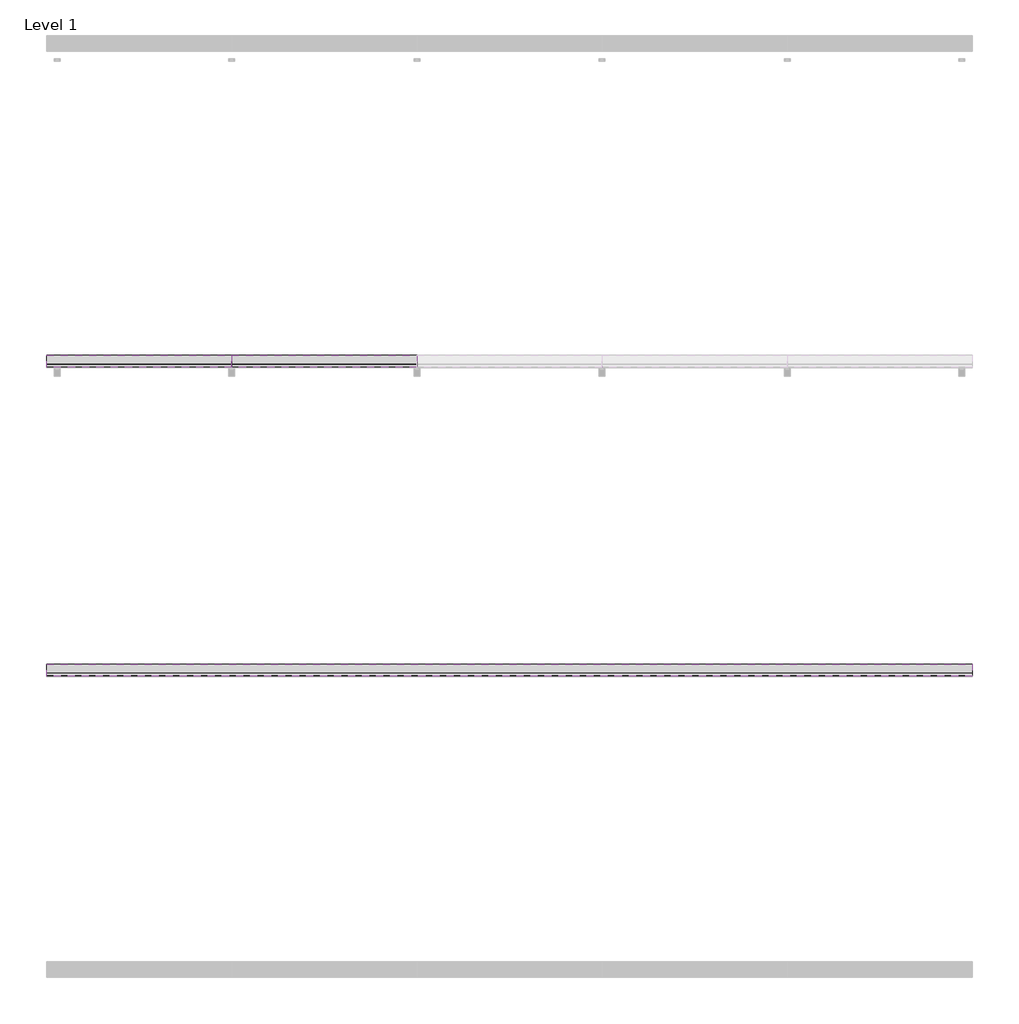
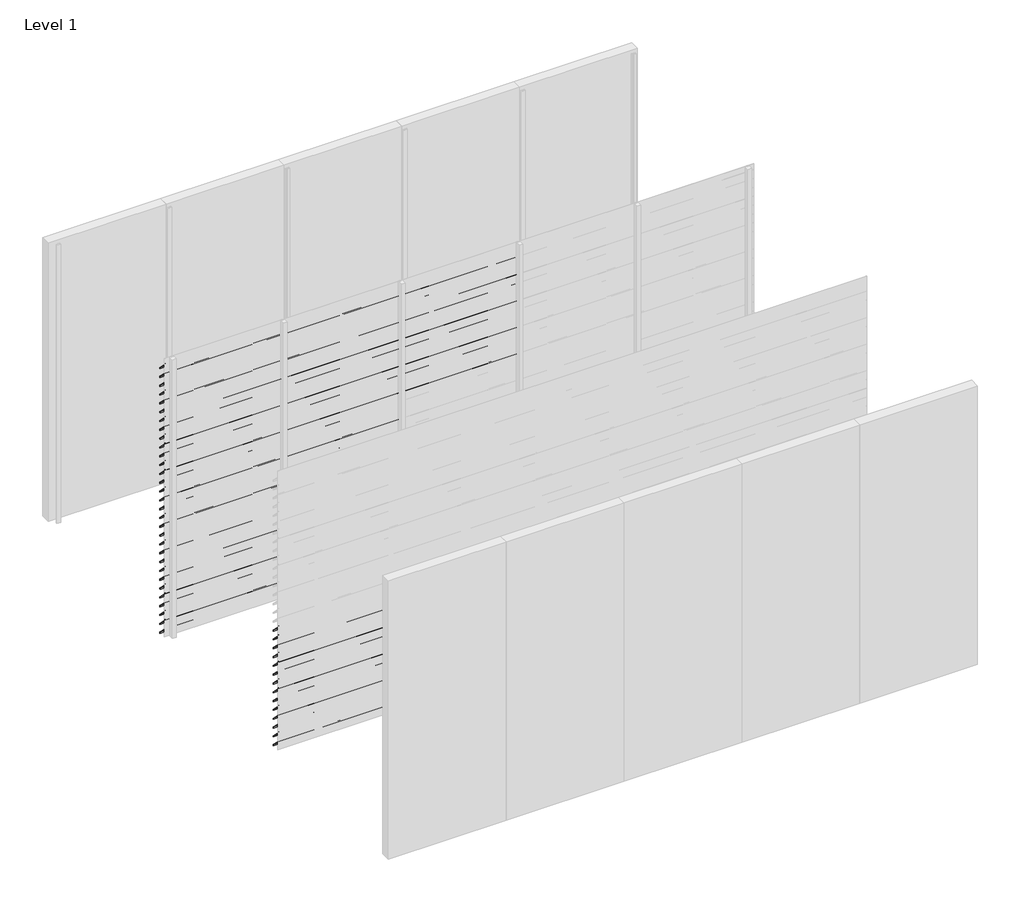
# One storey, part 12 of 24: 89 proxies.
"""IFC4 building model written with IfcOpenShell, lengths in millimetres."""

from ifc_helpers import new_model, si_unit, frame, origin, place, context, project, spatial, polyline, outline, extrude, element, save

model = new_model("IFC4")

# Units and contexts
model_context = context("Model", 3, world=origin())
ifc_project = project(units=[si_unit("LENGTHUNIT", "METRE", prefix="MILLI")], contexts=[model_context])

# Site, building, storey
site = spatial("IfcSite", under=ifc_project)
building = spatial("IfcBuilding", under=site)
storey = spatial("IfcBuildingStorey", under=building, Name="Level 1", Elevation=0.0)

# Proxies
placement = place(None, origin())
element("IfcBuildingElementProxy", 1, Name="Wall Sweeps", at=placement, inside=storey, context=model_context, shape_type="SweptSolid", body=[
    extrude(outline(polyline([(-29920.8, 2842.9), (-29922.3, 2842.9), (-29922.3, 2855.1762333), (-29998.0, 2930.4561238), (-29998.0, 2945.0), (-29996.5, 2945.0), (-29996.5, 2931.0798905), (-29920.8, 2855.8), (-29920.8, 2842.9)])), frame((0.0, 0.0, 0.0), z_axis=(1.0, 0.0, 0.0), x_axis=(0.0, 1.0, 0.0)), (0.0, 0.0, 1.0), 1200.0),
])
element("IfcBuildingElementProxy", 2, Name="Wall Sweeps", at=placement, inside=storey, context=model_context, shape_type="SweptSolid", body=[
    extrude(outline(polyline([(-29920.8, 2747.9), (-29922.3, 2747.9), (-29922.3, 2760.1762333), (-29998.0, 2835.4561238), (-29998.0, 2850.0), (-29996.5, 2850.0), (-29996.5, 2836.0798905), (-29920.8, 2760.8), (-29920.8, 2747.9)])), frame((0.0, 0.0, 0.0), z_axis=(1.0, 0.0, 0.0), x_axis=(0.0, 1.0, 0.0)), (0.0, 0.0, 1.0), 1200.0),
])
element("IfcBuildingElementProxy", 3, Name="Wall Sweeps", at=placement, inside=storey, context=model_context, shape_type="SweptSolid", body=[
    extrude(outline(polyline([(-29920.8, 2652.9), (-29922.3, 2652.9), (-29922.3, 2665.1762333), (-29998.0, 2740.4561238), (-29998.0, 2755.0), (-29996.5, 2755.0), (-29996.5, 2741.0798905), (-29920.8, 2665.8), (-29920.8, 2652.9)])), frame((0.0, 0.0, 0.0), z_axis=(1.0, 0.0, 0.0), x_axis=(0.0, 1.0, 0.0)), (0.0, 0.0, 1.0), 1200.0),
])
element("IfcBuildingElementProxy", 4, Name="Wall Sweeps", at=placement, inside=storey, context=model_context, shape_type="SweptSolid", body=[
    extrude(outline(polyline([(-29920.8, 2557.9), (-29922.3, 2557.9), (-29922.3, 2570.1762333), (-29998.0, 2645.4561238), (-29998.0, 2660.0), (-29996.5, 2660.0), (-29996.5, 2646.0798905), (-29920.8, 2570.8), (-29920.8, 2557.9)])), frame((0.0, 0.0, 0.0), z_axis=(1.0, 0.0, 0.0), x_axis=(0.0, 1.0, 0.0)), (0.0, 0.0, 1.0), 1200.0),
])
element("IfcBuildingElementProxy", 5, Name="Wall Sweeps", at=placement, inside=storey, context=model_context, shape_type="SweptSolid", body=[
    extrude(outline(polyline([(-29920.8, 2462.9), (-29922.3, 2462.9), (-29922.3, 2475.1762333), (-29998.0, 2550.4561238), (-29998.0, 2565.0), (-29996.5, 2565.0), (-29996.5, 2551.0798905), (-29920.8, 2475.8), (-29920.8, 2462.9)])), frame((0.0, 0.0, 0.0), z_axis=(1.0, 0.0, 0.0), x_axis=(0.0, 1.0, 0.0)), (0.0, 0.0, 1.0), 1200.0),
])
element("IfcBuildingElementProxy", 6, Name="Wall Sweeps", at=placement, inside=storey, context=model_context, shape_type="SweptSolid", body=[
    extrude(outline(polyline([(-29920.8, 2367.9), (-29922.3, 2367.9), (-29922.3, 2380.1762333), (-29998.0, 2455.4561238), (-29998.0, 2470.0), (-29996.5, 2470.0), (-29996.5, 2456.0798905), (-29920.8, 2380.8), (-29920.8, 2367.9)])), frame((0.0, 0.0, 0.0), z_axis=(1.0, 0.0, 0.0), x_axis=(0.0, 1.0, 0.0)), (0.0, 0.0, 1.0), 1200.0),
])
element("IfcBuildingElementProxy", 7, Name="Wall Sweeps", at=placement, inside=storey, context=model_context, shape_type="SweptSolid", body=[
    extrude(outline(polyline([(-29920.8, 2272.9), (-29922.3, 2272.9), (-29922.3, 2285.1762333), (-29998.0, 2360.4561238), (-29998.0, 2375.0), (-29996.5, 2375.0), (-29996.5, 2361.0798905), (-29920.8, 2285.8), (-29920.8, 2272.9)])), frame((0.0, 0.0, 0.0), z_axis=(1.0, 0.0, 0.0), x_axis=(0.0, 1.0, 0.0)), (0.0, 0.0, 1.0), 1200.0),
])
element("IfcBuildingElementProxy", 8, Name="Wall Sweeps", at=placement, inside=storey, context=model_context, shape_type="SweptSolid", body=[
    extrude(outline(polyline([(-29920.8, 2177.9), (-29922.3, 2177.9), (-29922.3, 2190.1762333), (-29998.0, 2265.4561238), (-29998.0, 2280.0), (-29996.5, 2280.0), (-29996.5, 2266.0798905), (-29920.8, 2190.8), (-29920.8, 2177.9)])), frame((0.0, 0.0, 0.0), z_axis=(1.0, 0.0, 0.0), x_axis=(0.0, 1.0, 0.0)), (0.0, 0.0, 1.0), 1200.0),
])
element("IfcBuildingElementProxy", 9, Name="Wall Sweeps", at=placement, inside=storey, context=model_context, shape_type="SweptSolid", body=[
    extrude(outline(polyline([(-29920.8, 2082.9), (-29922.3, 2082.9), (-29922.3, 2095.1762333), (-29998.0, 2170.4561238), (-29998.0, 2185.0), (-29996.5, 2185.0), (-29996.5, 2171.0798905), (-29920.8, 2095.8), (-29920.8, 2082.9)])), frame((0.0, 0.0, 0.0), z_axis=(1.0, 0.0, 0.0), x_axis=(0.0, 1.0, 0.0)), (0.0, 0.0, 1.0), 1200.0),
])
element("IfcBuildingElementProxy", 10, Name="Wall Sweeps", at=placement, inside=storey, context=model_context, shape_type="SweptSolid", body=[
    extrude(outline(polyline([(-29920.8, 1987.9), (-29922.3, 1987.9), (-29922.3, 2000.1762333), (-29998.0, 2075.4561238), (-29998.0, 2090.0), (-29996.5, 2090.0), (-29996.5, 2076.0798905), (-29920.8, 2000.8), (-29920.8, 1987.9)])), frame((0.0, 0.0, 0.0), z_axis=(1.0, 0.0, 0.0), x_axis=(0.0, 1.0, 0.0)), (0.0, 0.0, 1.0), 1200.0),
])
element("IfcBuildingElementProxy", 11, Name="Wall Sweeps", at=placement, inside=storey, context=model_context, shape_type="SweptSolid", body=[
    extrude(outline(polyline([(-29920.8, 1892.9), (-29922.3, 1892.9), (-29922.3, 1905.1762333), (-29998.0, 1980.4561238), (-29998.0, 1995.0), (-29996.5, 1995.0), (-29996.5, 1981.0798905), (-29920.8, 1905.8), (-29920.8, 1892.9)])), frame((0.0, 0.0, 0.0), z_axis=(1.0, 0.0, 0.0), x_axis=(0.0, 1.0, 0.0)), (0.0, 0.0, 1.0), 1200.0),
])
element("IfcBuildingElementProxy", 12, Name="Wall Sweeps", at=placement, inside=storey, context=model_context, shape_type="SweptSolid", body=[
    extrude(outline(polyline([(-29920.8, 1797.9), (-29922.3, 1797.9), (-29922.3, 1810.1762333), (-29998.0, 1885.4561238), (-29998.0, 1900.0), (-29996.5, 1900.0), (-29996.5, 1886.0798905), (-29920.8, 1810.8), (-29920.8, 1797.9)])), frame((0.0, 0.0, 0.0), z_axis=(1.0, 0.0, 0.0), x_axis=(0.0, 1.0, 0.0)), (0.0, 0.0, 1.0), 1200.0),
])
element("IfcBuildingElementProxy", 13, Name="Wall Sweeps", at=placement, inside=storey, context=model_context, shape_type="SweptSolid", body=[
    extrude(outline(polyline([(-29920.8, 1702.9), (-29922.3, 1702.9), (-29922.3, 1715.1762333), (-29998.0, 1790.4561238), (-29998.0, 1805.0), (-29996.5, 1805.0), (-29996.5, 1791.0798905), (-29920.8, 1715.8), (-29920.8, 1702.9)])), frame((0.0, 0.0, 0.0), z_axis=(1.0, 0.0, 0.0), x_axis=(0.0, 1.0, 0.0)), (0.0, 0.0, 1.0), 1200.0),
])
element("IfcBuildingElementProxy", 14, Name="Wall Sweeps", at=placement, inside=storey, context=model_context, shape_type="SweptSolid", body=[
    extrude(outline(polyline([(-29920.8, 1607.9), (-29922.3, 1607.9), (-29922.3, 1620.1762333), (-29998.0, 1695.4561238), (-29998.0, 1710.0), (-29996.5, 1710.0), (-29996.5, 1696.0798905), (-29920.8, 1620.8), (-29920.8, 1607.9)])), frame((0.0, 0.0, 0.0), z_axis=(1.0, 0.0, 0.0), x_axis=(0.0, 1.0, 0.0)), (0.0, 0.0, 1.0), 1200.0),
])
element("IfcBuildingElementProxy", 15, Name="Wall Sweeps", at=placement, inside=storey, context=model_context, shape_type="SweptSolid", body=[
    extrude(outline(polyline([(-29920.8, 1512.9), (-29922.3, 1512.9), (-29922.3, 1525.1762333), (-29998.0, 1600.4561238), (-29998.0, 1615.0), (-29996.5, 1615.0), (-29996.5, 1601.0798905), (-29920.8, 1525.8), (-29920.8, 1512.9)])), frame((0.0, 0.0, 0.0), z_axis=(1.0, 0.0, 0.0), x_axis=(0.0, 1.0, 0.0)), (0.0, 0.0, 1.0), 1200.0),
])
element("IfcBuildingElementProxy", 16, Name="Wall Sweeps", at=placement, inside=storey, context=model_context, shape_type="SweptSolid", body=[
    extrude(outline(polyline([(-29920.8, 1417.9), (-29922.3, 1417.9), (-29922.3, 1430.1762333), (-29998.0, 1505.4561238), (-29998.0, 1520.0), (-29996.5, 1520.0), (-29996.5, 1506.0798905), (-29920.8, 1430.8), (-29920.8, 1417.9)])), frame((0.0, 0.0, 0.0), z_axis=(1.0, 0.0, 0.0), x_axis=(0.0, 1.0, 0.0)), (0.0, 0.0, 1.0), 1200.0),
])
element("IfcBuildingElementProxy", 17, Name="Wall Sweeps", at=placement, inside=storey, context=model_context, shape_type="SweptSolid", body=[
    extrude(outline(polyline([(-29920.8, 1322.9), (-29922.3, 1322.9), (-29922.3, 1335.1762333), (-29998.0, 1410.4561238), (-29998.0, 1425.0), (-29996.5, 1425.0), (-29996.5, 1411.0798905), (-29920.8, 1335.8), (-29920.8, 1322.9)])), frame((0.0, 0.0, 0.0), z_axis=(1.0, 0.0, 0.0), x_axis=(0.0, 1.0, 0.0)), (0.0, 0.0, 1.0), 1200.0),
])
element("IfcBuildingElementProxy", 18, Name="Wall Sweeps", at=placement, inside=storey, context=model_context, shape_type="SweptSolid", body=[
    extrude(outline(polyline([(-29920.8, 1227.9), (-29922.3, 1227.9), (-29922.3, 1240.1762333), (-29998.0, 1315.4561238), (-29998.0, 1330.0), (-29996.5, 1330.0), (-29996.5, 1316.0798905), (-29920.8, 1240.8), (-29920.8, 1227.9)])), frame((0.0, 0.0, 0.0), z_axis=(1.0, 0.0, 0.0), x_axis=(0.0, 1.0, 0.0)), (0.0, 0.0, 1.0), 1200.0),
])
element("IfcBuildingElementProxy", 19, Name="Wall Sweeps", at=placement, inside=storey, context=model_context, shape_type="SweptSolid", body=[
    extrude(outline(polyline([(-29920.8, 1132.9), (-29922.3, 1132.9), (-29922.3, 1145.1762333), (-29998.0, 1220.4561238), (-29998.0, 1235.0), (-29996.5, 1235.0), (-29996.5, 1221.0798905), (-29920.8, 1145.8), (-29920.8, 1132.9)])), frame((0.0, 0.0, 0.0), z_axis=(1.0, 0.0, 0.0), x_axis=(0.0, 1.0, 0.0)), (0.0, 0.0, 1.0), 1200.0),
])
element("IfcBuildingElementProxy", 20, Name="Wall Sweeps", at=placement, inside=storey, context=model_context, shape_type="SweptSolid", body=[
    extrude(outline(polyline([(-29920.8, 1037.9), (-29922.3, 1037.9), (-29922.3, 1050.1762333), (-29998.0, 1125.4561238), (-29998.0, 1140.0), (-29996.5, 1140.0), (-29996.5, 1126.0798905), (-29920.8, 1050.8), (-29920.8, 1037.9)])), frame((0.0, 0.0, 0.0), z_axis=(1.0, 0.0, 0.0), x_axis=(0.0, 1.0, 0.0)), (0.0, 0.0, 1.0), 1200.0),
])
element("IfcBuildingElementProxy", 21, Name="Wall Sweeps", at=placement, inside=storey, context=model_context, shape_type="SweptSolid", body=[
    extrude(outline(polyline([(-29920.8, 942.9), (-29922.3, 942.9), (-29922.3, 955.1762333), (-29998.0, 1030.4561238), (-29998.0, 1045.0), (-29996.5, 1045.0), (-29996.5, 1031.0798905), (-29920.8, 955.8), (-29920.8, 942.9)])), frame((0.0, 0.0, 0.0), z_axis=(1.0, 0.0, 0.0), x_axis=(0.0, 1.0, 0.0)), (0.0, 0.0, 1.0), 1200.0),
])
element("IfcBuildingElementProxy", 22, Name="Wall Sweeps", at=placement, inside=storey, context=model_context, shape_type="SweptSolid", body=[
    extrude(outline(polyline([(-29920.8, 847.9), (-29922.3, 847.9), (-29922.3, 860.1762333), (-29998.0, 935.4561238), (-29998.0, 950.0), (-29996.5, 950.0), (-29996.5, 936.0798905), (-29920.8, 860.8), (-29920.8, 847.9)])), frame((0.0, 0.0, 0.0), z_axis=(1.0, 0.0, 0.0), x_axis=(0.0, 1.0, 0.0)), (0.0, 0.0, 1.0), 1200.0),
])
element("IfcBuildingElementProxy", 23, Name="Wall Sweeps", at=placement, inside=storey, context=model_context, shape_type="SweptSolid", body=[
    extrude(outline(polyline([(-29920.8, 752.9), (-29922.3, 752.9), (-29922.3, 765.1762333), (-29998.0, 840.4561238), (-29998.0, 855.0), (-29996.5, 855.0), (-29996.5, 841.0798905), (-29920.8, 765.8), (-29920.8, 752.9)])), frame((0.0, 0.0, 0.0), z_axis=(1.0, 0.0, 0.0), x_axis=(0.0, 1.0, 0.0)), (0.0, 0.0, 1.0), 1200.0),
])
element("IfcBuildingElementProxy", 24, Name="Wall Sweeps", at=placement, inside=storey, context=model_context, shape_type="SweptSolid", body=[
    extrude(outline(polyline([(-29920.8, 657.9), (-29922.3, 657.9), (-29922.3, 670.1762333), (-29998.0, 745.4561238), (-29998.0, 760.0), (-29996.5, 760.0), (-29996.5, 746.0798905), (-29920.8, 670.8), (-29920.8, 657.9)])), frame((0.0, 0.0, 0.0), z_axis=(1.0, 0.0, 0.0), x_axis=(0.0, 1.0, 0.0)), (0.0, 0.0, 1.0), 1200.0),
])
element("IfcBuildingElementProxy", 25, Name="Wall Sweeps", at=placement, inside=storey, context=model_context, shape_type="SweptSolid", body=[
    extrude(outline(polyline([(-29920.8, 562.9), (-29922.3, 562.9), (-29922.3, 575.1762333), (-29998.0, 650.4561238), (-29998.0, 665.0), (-29996.5, 665.0), (-29996.5, 651.0798905), (-29920.8, 575.8), (-29920.8, 562.9)])), frame((0.0, 0.0, 0.0), z_axis=(1.0, 0.0, 0.0), x_axis=(0.0, 1.0, 0.0)), (0.0, 0.0, 1.0), 1200.0),
])
element("IfcBuildingElementProxy", 26, Name="Wall Sweeps", at=placement, inside=storey, context=model_context, shape_type="SweptSolid", body=[
    extrude(outline(polyline([(-29920.8, 467.9), (-29922.3, 467.9), (-29922.3, 480.1762333), (-29998.0, 555.4561238), (-29998.0, 570.0), (-29996.5, 570.0), (-29996.5, 556.0798905), (-29920.8, 480.8), (-29920.8, 467.9)])), frame((0.0, 0.0, 0.0), z_axis=(1.0, 0.0, 0.0), x_axis=(0.0, 1.0, 0.0)), (0.0, 0.0, 1.0), 1200.0),
])
element("IfcBuildingElementProxy", 27, Name="Wall Sweeps", at=placement, inside=storey, context=model_context, shape_type="SweptSolid", body=[
    extrude(outline(polyline([(-29920.8, 372.9), (-29922.3, 372.9), (-29922.3, 385.1762333), (-29998.0, 460.4561238), (-29998.0, 475.0), (-29996.5, 475.0), (-29996.5, 461.0798905), (-29920.8, 385.8), (-29920.8, 372.9)])), frame((0.0, 0.0, 0.0), z_axis=(1.0, 0.0, 0.0), x_axis=(0.0, 1.0, 0.0)), (0.0, 0.0, 1.0), 1200.0),
])
element("IfcBuildingElementProxy", 28, Name="Wall Sweeps", at=placement, inside=storey, context=model_context, shape_type="SweptSolid", body=[
    extrude(outline(polyline([(-29920.8, 277.9), (-29922.3, 277.9), (-29922.3, 290.1762333), (-29998.0, 365.4561238), (-29998.0, 380.0), (-29996.5, 380.0), (-29996.5, 366.0798905), (-29920.8, 290.8), (-29920.8, 277.9)])), frame((0.0, 0.0, 0.0), z_axis=(1.0, 0.0, 0.0), x_axis=(0.0, 1.0, 0.0)), (0.0, 0.0, 1.0), 1200.0),
])
element("IfcBuildingElementProxy", 29, Name="Wall Sweeps", at=placement, inside=storey, context=model_context, shape_type="SweptSolid", body=[
    extrude(outline(polyline([(-29920.8, 182.9), (-29922.3, 182.9), (-29922.3, 195.1762333), (-29998.0, 270.4561238), (-29998.0, 285.0), (-29996.5, 285.0), (-29996.5, 271.0798905), (-29920.8, 195.8), (-29920.8, 182.9)])), frame((0.0, 0.0, 0.0), z_axis=(1.0, 0.0, 0.0), x_axis=(0.0, 1.0, 0.0)), (0.0, 0.0, 1.0), 1200.0),
])
element("IfcBuildingElementProxy", 30, Name="Wall Sweeps", at=placement, inside=storey, context=model_context, shape_type="SweptSolid", body=[
    extrude(outline(polyline([(-29920.8, 87.9), (-29922.3, 87.9), (-29922.3, 100.1762333), (-29998.0, 175.4561238), (-29998.0, 190.0), (-29996.5, 190.0), (-29996.5, 176.0798905), (-29920.8, 100.8), (-29920.8, 87.9)])), frame((0.0, 0.0, 0.0), z_axis=(1.0, 0.0, 0.0), x_axis=(0.0, 1.0, 0.0)), (0.0, 0.0, 1.0), 1200.0),
])
element("IfcBuildingElementProxy", 31, Name="Wall Sweeps", at=placement, inside=storey, context=model_context, shape_type="SweptSolid", body=[
    extrude(outline(polyline([(-29920.8, -7.1), (-29922.3, -7.1), (-29922.3, 5.1762333), (-29998.0, 80.4561238), (-29998.0, 95.0), (-29996.5, 95.0), (-29996.5, 81.0798905), (-29920.8, 5.8), (-29920.8, -7.1)])), frame((0.0, 0.0, 0.0), z_axis=(1.0, 0.0, 0.0), x_axis=(0.0, 1.0, 0.0)), (0.0, 0.0, 1.0), 1200.0),
])
element("IfcBuildingElementProxy", 32, Name="Wall Sweeps", at=placement, inside=storey, context=model_context, shape_type="SweptSolid", body=[
    extrude(outline(polyline([(-29920.8, 2842.9), (-29922.3, 2842.9), (-29922.3, 2855.1762333), (-29998.0, 2930.4561238), (-29998.0, 2945.0), (-29996.5, 2945.0), (-29996.5, 2931.0798905), (-29920.8, 2855.8), (-29920.8, 2842.9)])), frame((1200.0, 0.0, 0.0), z_axis=(1.0, 0.0, 0.0), x_axis=(0.0, 1.0, 0.0)), (0.0, 0.0, 1.0), 1200.0),
])
element("IfcBuildingElementProxy", 33, Name="Wall Sweeps", at=placement, inside=storey, context=model_context, shape_type="SweptSolid", body=[
    extrude(outline(polyline([(-29920.8, 2747.9), (-29922.3, 2747.9), (-29922.3, 2760.1762333), (-29998.0, 2835.4561238), (-29998.0, 2850.0), (-29996.5, 2850.0), (-29996.5, 2836.0798905), (-29920.8, 2760.8), (-29920.8, 2747.9)])), frame((1200.0, 0.0, 0.0), z_axis=(1.0, 0.0, 0.0), x_axis=(0.0, 1.0, 0.0)), (0.0, 0.0, 1.0), 1200.0),
])
element("IfcBuildingElementProxy", 34, Name="Wall Sweeps", at=placement, inside=storey, context=model_context, shape_type="SweptSolid", body=[
    extrude(outline(polyline([(-29920.8, 2652.9), (-29922.3, 2652.9), (-29922.3, 2665.1762333), (-29998.0, 2740.4561238), (-29998.0, 2755.0), (-29996.5, 2755.0), (-29996.5, 2741.0798905), (-29920.8, 2665.8), (-29920.8, 2652.9)])), frame((1200.0, 0.0, 0.0), z_axis=(1.0, 0.0, 0.0), x_axis=(0.0, 1.0, 0.0)), (0.0, 0.0, 1.0), 1200.0),
])
element("IfcBuildingElementProxy", 35, Name="Wall Sweeps", at=placement, inside=storey, context=model_context, shape_type="SweptSolid", body=[
    extrude(outline(polyline([(-29920.8, 2557.9), (-29922.3, 2557.9), (-29922.3, 2570.1762333), (-29998.0, 2645.4561238), (-29998.0, 2660.0), (-29996.5, 2660.0), (-29996.5, 2646.0798905), (-29920.8, 2570.8), (-29920.8, 2557.9)])), frame((1200.0, 0.0, 0.0), z_axis=(1.0, 0.0, 0.0), x_axis=(0.0, 1.0, 0.0)), (0.0, 0.0, 1.0), 1200.0),
])
element("IfcBuildingElementProxy", 36, Name="Wall Sweeps", at=placement, inside=storey, context=model_context, shape_type="SweptSolid", body=[
    extrude(outline(polyline([(-29920.8, 2462.9), (-29922.3, 2462.9), (-29922.3, 2475.1762333), (-29998.0, 2550.4561238), (-29998.0, 2565.0), (-29996.5, 2565.0), (-29996.5, 2551.0798905), (-29920.8, 2475.8), (-29920.8, 2462.9)])), frame((1200.0, 0.0, 0.0), z_axis=(1.0, 0.0, 0.0), x_axis=(0.0, 1.0, 0.0)), (0.0, 0.0, 1.0), 1200.0),
])
element("IfcBuildingElementProxy", 37, Name="Wall Sweeps", at=placement, inside=storey, context=model_context, shape_type="SweptSolid", body=[
    extrude(outline(polyline([(-29920.8, 2367.9), (-29922.3, 2367.9), (-29922.3, 2380.1762333), (-29998.0, 2455.4561238), (-29998.0, 2470.0), (-29996.5, 2470.0), (-29996.5, 2456.0798905), (-29920.8, 2380.8), (-29920.8, 2367.9)])), frame((1200.0, 0.0, 0.0), z_axis=(1.0, 0.0, 0.0), x_axis=(0.0, 1.0, 0.0)), (0.0, 0.0, 1.0), 1200.0),
])
element("IfcBuildingElementProxy", 38, Name="Wall Sweeps", at=placement, inside=storey, context=model_context, shape_type="SweptSolid", body=[
    extrude(outline(polyline([(-29920.8, 2272.9), (-29922.3, 2272.9), (-29922.3, 2285.1762333), (-29998.0, 2360.4561238), (-29998.0, 2375.0), (-29996.5, 2375.0), (-29996.5, 2361.0798905), (-29920.8, 2285.8), (-29920.8, 2272.9)])), frame((1200.0, 0.0, 0.0), z_axis=(1.0, 0.0, 0.0), x_axis=(0.0, 1.0, 0.0)), (0.0, 0.0, 1.0), 1200.0),
])
element("IfcBuildingElementProxy", 39, Name="Wall Sweeps", at=placement, inside=storey, context=model_context, shape_type="SweptSolid", body=[
    extrude(outline(polyline([(-29920.8, 2177.9), (-29922.3, 2177.9), (-29922.3, 2190.1762333), (-29998.0, 2265.4561238), (-29998.0, 2280.0), (-29996.5, 2280.0), (-29996.5, 2266.0798905), (-29920.8, 2190.8), (-29920.8, 2177.9)])), frame((1200.0, 0.0, 0.0), z_axis=(1.0, 0.0, 0.0), x_axis=(0.0, 1.0, 0.0)), (0.0, 0.0, 1.0), 1200.0),
])
element("IfcBuildingElementProxy", 40, Name="Wall Sweeps", at=placement, inside=storey, context=model_context, shape_type="SweptSolid", body=[
    extrude(outline(polyline([(-29920.8, 2082.9), (-29922.3, 2082.9), (-29922.3, 2095.1762333), (-29998.0, 2170.4561238), (-29998.0, 2185.0), (-29996.5, 2185.0), (-29996.5, 2171.0798905), (-29920.8, 2095.8), (-29920.8, 2082.9)])), frame((1200.0, 0.0, 0.0), z_axis=(1.0, 0.0, 0.0), x_axis=(0.0, 1.0, 0.0)), (0.0, 0.0, 1.0), 1200.0),
])
element("IfcBuildingElementProxy", 41, Name="Wall Sweeps", at=placement, inside=storey, context=model_context, shape_type="SweptSolid", body=[
    extrude(outline(polyline([(-29920.8, 1987.9), (-29922.3, 1987.9), (-29922.3, 2000.1762333), (-29998.0, 2075.4561238), (-29998.0, 2090.0), (-29996.5, 2090.0), (-29996.5, 2076.0798905), (-29920.8, 2000.8), (-29920.8, 1987.9)])), frame((1200.0, 0.0, 0.0), z_axis=(1.0, 0.0, 0.0), x_axis=(0.0, 1.0, 0.0)), (0.0, 0.0, 1.0), 1200.0),
])
element("IfcBuildingElementProxy", 42, Name="Wall Sweeps", at=placement, inside=storey, context=model_context, shape_type="SweptSolid", body=[
    extrude(outline(polyline([(-29920.8, 1892.9), (-29922.3, 1892.9), (-29922.3, 1905.1762333), (-29998.0, 1980.4561238), (-29998.0, 1995.0), (-29996.5, 1995.0), (-29996.5, 1981.0798905), (-29920.8, 1905.8), (-29920.8, 1892.9)])), frame((1200.0, 0.0, 0.0), z_axis=(1.0, 0.0, 0.0), x_axis=(0.0, 1.0, 0.0)), (0.0, 0.0, 1.0), 1200.0),
])
element("IfcBuildingElementProxy", 43, Name="Wall Sweeps", at=placement, inside=storey, context=model_context, shape_type="SweptSolid", body=[
    extrude(outline(polyline([(-29920.8, 1797.9), (-29922.3, 1797.9), (-29922.3, 1810.1762333), (-29998.0, 1885.4561238), (-29998.0, 1900.0), (-29996.5, 1900.0), (-29996.5, 1886.0798905), (-29920.8, 1810.8), (-29920.8, 1797.9)])), frame((1200.0, 0.0, 0.0), z_axis=(1.0, 0.0, 0.0), x_axis=(0.0, 1.0, 0.0)), (0.0, 0.0, 1.0), 1200.0),
])
element("IfcBuildingElementProxy", 44, Name="Wall Sweeps", at=placement, inside=storey, context=model_context, shape_type="SweptSolid", body=[
    extrude(outline(polyline([(-29920.8, 1702.9), (-29922.3, 1702.9), (-29922.3, 1715.1762333), (-29998.0, 1790.4561238), (-29998.0, 1805.0), (-29996.5, 1805.0), (-29996.5, 1791.0798905), (-29920.8, 1715.8), (-29920.8, 1702.9)])), frame((1200.0, 0.0, 0.0), z_axis=(1.0, 0.0, 0.0), x_axis=(0.0, 1.0, 0.0)), (0.0, 0.0, 1.0), 1200.0),
])
element("IfcBuildingElementProxy", 45, Name="Wall Sweeps", at=placement, inside=storey, context=model_context, shape_type="SweptSolid", body=[
    extrude(outline(polyline([(-29920.8, 1607.9), (-29922.3, 1607.9), (-29922.3, 1620.1762333), (-29998.0, 1695.4561238), (-29998.0, 1710.0), (-29996.5, 1710.0), (-29996.5, 1696.0798905), (-29920.8, 1620.8), (-29920.8, 1607.9)])), frame((1200.0, 0.0, 0.0), z_axis=(1.0, 0.0, 0.0), x_axis=(0.0, 1.0, 0.0)), (0.0, 0.0, 1.0), 1200.0),
])
element("IfcBuildingElementProxy", 46, Name="Wall Sweeps", at=placement, inside=storey, context=model_context, shape_type="SweptSolid", body=[
    extrude(outline(polyline([(-29920.8, 1512.9), (-29922.3, 1512.9), (-29922.3, 1525.1762333), (-29998.0, 1600.4561238), (-29998.0, 1615.0), (-29996.5, 1615.0), (-29996.5, 1601.0798905), (-29920.8, 1525.8), (-29920.8, 1512.9)])), frame((1200.0, 0.0, 0.0), z_axis=(1.0, 0.0, 0.0), x_axis=(0.0, 1.0, 0.0)), (0.0, 0.0, 1.0), 1200.0),
])
element("IfcBuildingElementProxy", 47, Name="Wall Sweeps", at=placement, inside=storey, context=model_context, shape_type="SweptSolid", body=[
    extrude(outline(polyline([(-29920.8, 1417.9), (-29922.3, 1417.9), (-29922.3, 1430.1762333), (-29998.0, 1505.4561238), (-29998.0, 1520.0), (-29996.5, 1520.0), (-29996.5, 1506.0798905), (-29920.8, 1430.8), (-29920.8, 1417.9)])), frame((1200.0, 0.0, 0.0), z_axis=(1.0, 0.0, 0.0), x_axis=(0.0, 1.0, 0.0)), (0.0, 0.0, 1.0), 1200.0),
])
element("IfcBuildingElementProxy", 48, Name="Wall Sweeps", at=placement, inside=storey, context=model_context, shape_type="SweptSolid", body=[
    extrude(outline(polyline([(-29920.8, 1322.9), (-29922.3, 1322.9), (-29922.3, 1335.1762333), (-29998.0, 1410.4561238), (-29998.0, 1425.0), (-29996.5, 1425.0), (-29996.5, 1411.0798905), (-29920.8, 1335.8), (-29920.8, 1322.9)])), frame((1200.0, 0.0, 0.0), z_axis=(1.0, 0.0, 0.0), x_axis=(0.0, 1.0, 0.0)), (0.0, 0.0, 1.0), 1200.0),
])
element("IfcBuildingElementProxy", 49, Name="Wall Sweeps", at=placement, inside=storey, context=model_context, shape_type="SweptSolid", body=[
    extrude(outline(polyline([(-29920.8, 1227.9), (-29922.3, 1227.9), (-29922.3, 1240.1762333), (-29998.0, 1315.4561238), (-29998.0, 1330.0), (-29996.5, 1330.0), (-29996.5, 1316.0798905), (-29920.8, 1240.8), (-29920.8, 1227.9)])), frame((1200.0, 0.0, 0.0), z_axis=(1.0, 0.0, 0.0), x_axis=(0.0, 1.0, 0.0)), (0.0, 0.0, 1.0), 1200.0),
])
element("IfcBuildingElementProxy", 50, Name="Wall Sweeps", at=placement, inside=storey, context=model_context, shape_type="SweptSolid", body=[
    extrude(outline(polyline([(-29920.8, 1132.9), (-29922.3, 1132.9), (-29922.3, 1145.1762333), (-29998.0, 1220.4561238), (-29998.0, 1235.0), (-29996.5, 1235.0), (-29996.5, 1221.0798905), (-29920.8, 1145.8), (-29920.8, 1132.9)])), frame((1200.0, 0.0, 0.0), z_axis=(1.0, 0.0, 0.0), x_axis=(0.0, 1.0, 0.0)), (0.0, 0.0, 1.0), 1200.0),
])
element("IfcBuildingElementProxy", 51, Name="Wall Sweeps", at=placement, inside=storey, context=model_context, shape_type="SweptSolid", body=[
    extrude(outline(polyline([(-29920.8, 1037.9), (-29922.3, 1037.9), (-29922.3, 1050.1762333), (-29998.0, 1125.4561238), (-29998.0, 1140.0), (-29996.5, 1140.0), (-29996.5, 1126.0798905), (-29920.8, 1050.8), (-29920.8, 1037.9)])), frame((1200.0, 0.0, 0.0), z_axis=(1.0, 0.0, 0.0), x_axis=(0.0, 1.0, 0.0)), (0.0, 0.0, 1.0), 1200.0),
])
element("IfcBuildingElementProxy", 52, Name="Wall Sweeps", at=placement, inside=storey, context=model_context, shape_type="SweptSolid", body=[
    extrude(outline(polyline([(-29920.8, 942.9), (-29922.3, 942.9), (-29922.3, 955.1762333), (-29998.0, 1030.4561238), (-29998.0, 1045.0), (-29996.5, 1045.0), (-29996.5, 1031.0798905), (-29920.8, 955.8), (-29920.8, 942.9)])), frame((1200.0, 0.0, 0.0), z_axis=(1.0, 0.0, 0.0), x_axis=(0.0, 1.0, 0.0)), (0.0, 0.0, 1.0), 1200.0),
])
element("IfcBuildingElementProxy", 53, Name="Wall Sweeps", at=placement, inside=storey, context=model_context, shape_type="SweptSolid", body=[
    extrude(outline(polyline([(-29920.8, 847.9), (-29922.3, 847.9), (-29922.3, 860.1762333), (-29998.0, 935.4561238), (-29998.0, 950.0), (-29996.5, 950.0), (-29996.5, 936.0798905), (-29920.8, 860.8), (-29920.8, 847.9)])), frame((1200.0, 0.0, 0.0), z_axis=(1.0, 0.0, 0.0), x_axis=(0.0, 1.0, 0.0)), (0.0, 0.0, 1.0), 1200.0),
])
element("IfcBuildingElementProxy", 54, Name="Wall Sweeps", at=placement, inside=storey, context=model_context, shape_type="SweptSolid", body=[
    extrude(outline(polyline([(-29920.8, 752.9), (-29922.3, 752.9), (-29922.3, 765.1762333), (-29998.0, 840.4561238), (-29998.0, 855.0), (-29996.5, 855.0), (-29996.5, 841.0798905), (-29920.8, 765.8), (-29920.8, 752.9)])), frame((1200.0, 0.0, 0.0), z_axis=(1.0, 0.0, 0.0), x_axis=(0.0, 1.0, 0.0)), (0.0, 0.0, 1.0), 1200.0),
])
element("IfcBuildingElementProxy", 55, Name="Wall Sweeps", at=placement, inside=storey, context=model_context, shape_type="SweptSolid", body=[
    extrude(outline(polyline([(-29920.8, 657.9), (-29922.3, 657.9), (-29922.3, 670.1762333), (-29998.0, 745.4561238), (-29998.0, 760.0), (-29996.5, 760.0), (-29996.5, 746.0798905), (-29920.8, 670.8), (-29920.8, 657.9)])), frame((1200.0, 0.0, 0.0), z_axis=(1.0, 0.0, 0.0), x_axis=(0.0, 1.0, 0.0)), (0.0, 0.0, 1.0), 1200.0),
])
element("IfcBuildingElementProxy", 56, Name="Wall Sweeps", at=placement, inside=storey, context=model_context, shape_type="SweptSolid", body=[
    extrude(outline(polyline([(-29920.8, 562.9), (-29922.3, 562.9), (-29922.3, 575.1762333), (-29998.0, 650.4561238), (-29998.0, 665.0), (-29996.5, 665.0), (-29996.5, 651.0798905), (-29920.8, 575.8), (-29920.8, 562.9)])), frame((1200.0, 0.0, 0.0), z_axis=(1.0, 0.0, 0.0), x_axis=(0.0, 1.0, 0.0)), (0.0, 0.0, 1.0), 1200.0),
])
element("IfcBuildingElementProxy", 57, Name="Wall Sweeps", at=placement, inside=storey, context=model_context, shape_type="SweptSolid", body=[
    extrude(outline(polyline([(-29920.8, 467.9), (-29922.3, 467.9), (-29922.3, 480.1762333), (-29998.0, 555.4561238), (-29998.0, 570.0), (-29996.5, 570.0), (-29996.5, 556.0798905), (-29920.8, 480.8), (-29920.8, 467.9)])), frame((1200.0, 0.0, 0.0), z_axis=(1.0, 0.0, 0.0), x_axis=(0.0, 1.0, 0.0)), (0.0, 0.0, 1.0), 1200.0),
])
element("IfcBuildingElementProxy", 58, Name="Wall Sweeps", at=placement, inside=storey, context=model_context, shape_type="SweptSolid", body=[
    extrude(outline(polyline([(-29920.8, 372.9), (-29922.3, 372.9), (-29922.3, 385.1762333), (-29998.0, 460.4561238), (-29998.0, 475.0), (-29996.5, 475.0), (-29996.5, 461.0798905), (-29920.8, 385.8), (-29920.8, 372.9)])), frame((1200.0, 0.0, 0.0), z_axis=(1.0, 0.0, 0.0), x_axis=(0.0, 1.0, 0.0)), (0.0, 0.0, 1.0), 1200.0),
])
element("IfcBuildingElementProxy", 59, Name="Wall Sweeps", at=placement, inside=storey, context=model_context, shape_type="SweptSolid", body=[
    extrude(outline(polyline([(-29920.8, 277.9), (-29922.3, 277.9), (-29922.3, 290.1762333), (-29998.0, 365.4561238), (-29998.0, 380.0), (-29996.5, 380.0), (-29996.5, 366.0798905), (-29920.8, 290.8), (-29920.8, 277.9)])), frame((1200.0, 0.0, 0.0), z_axis=(1.0, 0.0, 0.0), x_axis=(0.0, 1.0, 0.0)), (0.0, 0.0, 1.0), 1200.0),
])
element("IfcBuildingElementProxy", 60, Name="Wall Sweeps", at=placement, inside=storey, context=model_context, shape_type="SweptSolid", body=[
    extrude(outline(polyline([(-29920.8, 182.9), (-29922.3, 182.9), (-29922.3, 195.1762333), (-29998.0, 270.4561238), (-29998.0, 285.0), (-29996.5, 285.0), (-29996.5, 271.0798905), (-29920.8, 195.8), (-29920.8, 182.9)])), frame((1200.0, 0.0, 0.0), z_axis=(1.0, 0.0, 0.0), x_axis=(0.0, 1.0, 0.0)), (0.0, 0.0, 1.0), 1200.0),
])
element("IfcBuildingElementProxy", 61, Name="Wall Sweeps", at=placement, inside=storey, context=model_context, shape_type="SweptSolid", body=[
    extrude(outline(polyline([(-29920.8, 87.9), (-29922.3, 87.9), (-29922.3, 100.1762333), (-29998.0, 175.4561238), (-29998.0, 190.0), (-29996.5, 190.0), (-29996.5, 176.0798905), (-29920.8, 100.8), (-29920.8, 87.9)])), frame((1200.0, 0.0, 0.0), z_axis=(1.0, 0.0, 0.0), x_axis=(0.0, 1.0, 0.0)), (0.0, 0.0, 1.0), 1200.0),
])
element("IfcBuildingElementProxy", 62, Name="Wall Sweeps", at=placement, inside=storey, context=model_context, shape_type="SweptSolid", body=[
    extrude(outline(polyline([(-29920.8, -7.1), (-29922.3, -7.1), (-29922.3, 5.1762333), (-29998.0, 80.4561238), (-29998.0, 95.0), (-29996.5, 95.0), (-29996.5, 81.0798905), (-29920.8, 5.8), (-29920.8, -7.1)])), frame((1200.0, 0.0, 0.0), z_axis=(1.0, 0.0, 0.0), x_axis=(0.0, 1.0, 0.0)), (0.0, 0.0, 1.0), 1200.0),
])
element("IfcBuildingElementProxy", 63, Name="Wall Sweeps", at=placement, inside=storey, context=model_context, shape_type="SweptSolid", body=[
    extrude(outline(polyline([(-29920.8, 2842.9), (-29922.3, 2842.9), (-29922.3, 2855.1762333), (-29998.0, 2930.4561238), (-29998.0, 2945.0), (-29996.5, 2945.0), (-29996.5, 2931.0798905), (-29920.8, 2855.8), (-29920.8, 2842.9)])), frame((2400.0, 0.0, 0.0), z_axis=(1.0, 0.0, 0.0), x_axis=(0.0, 1.0, 0.0)), (0.0, 0.0, 1.0), 1200.0),
])
element("IfcBuildingElementProxy", 64, Name="Wall Sweeps", at=placement, inside=storey, context=model_context, shape_type="SweptSolid", body=[
    extrude(outline(polyline([(-29920.8, 2747.9), (-29922.3, 2747.9), (-29922.3, 2760.1762333), (-29998.0, 2835.4561238), (-29998.0, 2850.0), (-29996.5, 2850.0), (-29996.5, 2836.0798905), (-29920.8, 2760.8), (-29920.8, 2747.9)])), frame((2400.0, 0.0, 0.0), z_axis=(1.0, 0.0, 0.0), x_axis=(0.0, 1.0, 0.0)), (0.0, 0.0, 1.0), 1200.0),
])
element("IfcBuildingElementProxy", 65, Name="Wall Sweeps", at=placement, inside=storey, context=model_context, shape_type="SweptSolid", body=[
    extrude(outline(polyline([(-29920.8, 2652.9), (-29922.3, 2652.9), (-29922.3, 2665.1762333), (-29998.0, 2740.4561238), (-29998.0, 2755.0), (-29996.5, 2755.0), (-29996.5, 2741.0798905), (-29920.8, 2665.8), (-29920.8, 2652.9)])), frame((2400.0, 0.0, 0.0), z_axis=(1.0, 0.0, 0.0), x_axis=(0.0, 1.0, 0.0)), (0.0, 0.0, 1.0), 1200.0),
])
element("IfcBuildingElementProxy", 66, Name="Wall Sweeps", at=placement, inside=storey, context=model_context, shape_type="SweptSolid", body=[
    extrude(outline(polyline([(-29920.8, 2557.9), (-29922.3, 2557.9), (-29922.3, 2570.1762333), (-29998.0, 2645.4561238), (-29998.0, 2660.0), (-29996.5, 2660.0), (-29996.5, 2646.0798905), (-29920.8, 2570.8), (-29920.8, 2557.9)])), frame((2400.0, 0.0, 0.0), z_axis=(1.0, 0.0, 0.0), x_axis=(0.0, 1.0, 0.0)), (0.0, 0.0, 1.0), 1200.0),
])
element("IfcBuildingElementProxy", 67, Name="Wall Sweeps", at=placement, inside=storey, context=model_context, shape_type="SweptSolid", body=[
    extrude(outline(polyline([(-29920.8, 2462.9), (-29922.3, 2462.9), (-29922.3, 2475.1762333), (-29998.0, 2550.4561238), (-29998.0, 2565.0), (-29996.5, 2565.0), (-29996.5, 2551.0798905), (-29920.8, 2475.8), (-29920.8, 2462.9)])), frame((2400.0, 0.0, 0.0), z_axis=(1.0, 0.0, 0.0), x_axis=(0.0, 1.0, 0.0)), (0.0, 0.0, 1.0), 1200.0),
])
element("IfcBuildingElementProxy", 68, Name="Wall Sweeps", at=placement, inside=storey, context=model_context, shape_type="SweptSolid", body=[
    extrude(outline(polyline([(-29920.8, 2367.9), (-29922.3, 2367.9), (-29922.3, 2380.1762333), (-29998.0, 2455.4561238), (-29998.0, 2470.0), (-29996.5, 2470.0), (-29996.5, 2456.0798905), (-29920.8, 2380.8), (-29920.8, 2367.9)])), frame((2400.0, 0.0, 0.0), z_axis=(1.0, 0.0, 0.0), x_axis=(0.0, 1.0, 0.0)), (0.0, 0.0, 1.0), 1200.0),
])
element("IfcBuildingElementProxy", 69, Name="Wall Sweeps", at=placement, inside=storey, context=model_context, shape_type="SweptSolid", body=[
    extrude(outline(polyline([(-29920.8, 2272.9), (-29922.3, 2272.9), (-29922.3, 2285.1762333), (-29998.0, 2360.4561238), (-29998.0, 2375.0), (-29996.5, 2375.0), (-29996.5, 2361.0798905), (-29920.8, 2285.8), (-29920.8, 2272.9)])), frame((2400.0, 0.0, 0.0), z_axis=(1.0, 0.0, 0.0), x_axis=(0.0, 1.0, 0.0)), (0.0, 0.0, 1.0), 1200.0),
])
element("IfcBuildingElementProxy", 70, Name="Wall Sweeps", at=placement, inside=storey, context=model_context, shape_type="SweptSolid", body=[
    extrude(outline(polyline([(-29920.8, 2177.9), (-29922.3, 2177.9), (-29922.3, 2190.1762333), (-29998.0, 2265.4561238), (-29998.0, 2280.0), (-29996.5, 2280.0), (-29996.5, 2266.0798905), (-29920.8, 2190.8), (-29920.8, 2177.9)])), frame((2400.0, 0.0, 0.0), z_axis=(1.0, 0.0, 0.0), x_axis=(0.0, 1.0, 0.0)), (0.0, 0.0, 1.0), 1200.0),
])
element("IfcBuildingElementProxy", 71, Name="Wall Sweeps", at=placement, inside=storey, context=model_context, shape_type="SweptSolid", body=[
    extrude(outline(polyline([(-29920.8, 2082.9), (-29922.3, 2082.9), (-29922.3, 2095.1762333), (-29998.0, 2170.4561238), (-29998.0, 2185.0), (-29996.5, 2185.0), (-29996.5, 2171.0798905), (-29920.8, 2095.8), (-29920.8, 2082.9)])), frame((2400.0, 0.0, 0.0), z_axis=(1.0, 0.0, 0.0), x_axis=(0.0, 1.0, 0.0)), (0.0, 0.0, 1.0), 1200.0),
])
element("IfcBuildingElementProxy", 72, Name="Wall Sweeps", at=placement, inside=storey, context=model_context, shape_type="SweptSolid", body=[
    extrude(outline(polyline([(-29920.8, 1987.9), (-29922.3, 1987.9), (-29922.3, 2000.1762333), (-29998.0, 2075.4561238), (-29998.0, 2090.0), (-29996.5, 2090.0), (-29996.5, 2076.0798905), (-29920.8, 2000.8), (-29920.8, 1987.9)])), frame((2400.0, 0.0, 0.0), z_axis=(1.0, 0.0, 0.0), x_axis=(0.0, 1.0, 0.0)), (0.0, 0.0, 1.0), 1200.0),
])
element("IfcBuildingElementProxy", 73, Name="Wall Sweeps", at=placement, inside=storey, context=model_context, shape_type="SweptSolid", body=[
    extrude(outline(polyline([(-29920.8, 1892.9), (-29922.3, 1892.9), (-29922.3, 1905.1762333), (-29998.0, 1980.4561238), (-29998.0, 1995.0), (-29996.5, 1995.0), (-29996.5, 1981.0798905), (-29920.8, 1905.8), (-29920.8, 1892.9)])), frame((2400.0, 0.0, 0.0), z_axis=(1.0, 0.0, 0.0), x_axis=(0.0, 1.0, 0.0)), (0.0, 0.0, 1.0), 1200.0),
])
element("IfcBuildingElementProxy", 74, Name="Wall Sweeps", at=placement, inside=storey, context=model_context, shape_type="SweptSolid", body=[
    extrude(outline(polyline([(-29920.8, 1797.9), (-29922.3, 1797.9), (-29922.3, 1810.1762333), (-29998.0, 1885.4561238), (-29998.0, 1900.0), (-29996.5, 1900.0), (-29996.5, 1886.0798905), (-29920.8, 1810.8), (-29920.8, 1797.9)])), frame((2400.0, 0.0, 0.0), z_axis=(1.0, 0.0, 0.0), x_axis=(0.0, 1.0, 0.0)), (0.0, 0.0, 1.0), 1200.0),
])
element("IfcBuildingElementProxy", 75, Name="Wall Sweeps", at=placement, inside=storey, context=model_context, shape_type="SweptSolid", body=[
    extrude(outline(polyline([(-29920.8, 1702.9), (-29922.3, 1702.9), (-29922.3, 1715.1762333), (-29998.0, 1790.4561238), (-29998.0, 1805.0), (-29996.5, 1805.0), (-29996.5, 1791.0798905), (-29920.8, 1715.8), (-29920.8, 1702.9)])), frame((2400.0, 0.0, 0.0), z_axis=(1.0, 0.0, 0.0), x_axis=(0.0, 1.0, 0.0)), (0.0, 0.0, 1.0), 1200.0),
])
element("IfcBuildingElementProxy", 76, Name="Wall Sweeps", at=placement, inside=storey, context=model_context, shape_type="SweptSolid", body=[
    extrude(outline(polyline([(-31920.8, 1227.9), (-31922.3, 1227.9), (-31922.3, 1240.1762333), (-31998.0, 1315.4561238), (-31998.0, 1330.0), (-31996.5, 1330.0), (-31996.5, 1316.0798905), (-31920.8, 1240.8), (-31920.8, 1227.9)])), frame((0.0, 0.0, 0.0), z_axis=(1.0, 0.0, 0.0), x_axis=(0.0, 1.0, 0.0)), (0.0, 0.0, 1.0), 6000.0),
])
element("IfcBuildingElementProxy", 77, Name="Wall Sweeps", at=placement, inside=storey, context=model_context, shape_type="SweptSolid", body=[
    extrude(outline(polyline([(-31920.8, 1132.9), (-31922.3, 1132.9), (-31922.3, 1145.1762333), (-31998.0, 1220.4561238), (-31998.0, 1235.0), (-31996.5, 1235.0), (-31996.5, 1221.0798905), (-31920.8, 1145.8), (-31920.8, 1132.9)])), frame((0.0, 0.0, 0.0), z_axis=(1.0, 0.0, 0.0), x_axis=(0.0, 1.0, 0.0)), (0.0, 0.0, 1.0), 6000.0),
])
element("IfcBuildingElementProxy", 78, Name="Wall Sweeps", at=placement, inside=storey, context=model_context, shape_type="SweptSolid", body=[
    extrude(outline(polyline([(-31920.8, 1037.9), (-31922.3, 1037.9), (-31922.3, 1050.1762333), (-31998.0, 1125.4561238), (-31998.0, 1140.0), (-31996.5, 1140.0), (-31996.5, 1126.0798905), (-31920.8, 1050.8), (-31920.8, 1037.9)])), frame((0.0, 0.0, 0.0), z_axis=(1.0, 0.0, 0.0), x_axis=(0.0, 1.0, 0.0)), (0.0, 0.0, 1.0), 6000.0),
])
element("IfcBuildingElementProxy", 79, Name="Wall Sweeps", at=placement, inside=storey, context=model_context, shape_type="SweptSolid", body=[
    extrude(outline(polyline([(-31920.8, 942.9), (-31922.3, 942.9), (-31922.3, 955.1762333), (-31998.0, 1030.4561238), (-31998.0, 1045.0), (-31996.5, 1045.0), (-31996.5, 1031.0798905), (-31920.8, 955.8), (-31920.8, 942.9)])), frame((0.0, 0.0, 0.0), z_axis=(1.0, 0.0, 0.0), x_axis=(0.0, 1.0, 0.0)), (0.0, 0.0, 1.0), 6000.0),
])
element("IfcBuildingElementProxy", 80, Name="Wall Sweeps", at=placement, inside=storey, context=model_context, shape_type="SweptSolid", body=[
    extrude(outline(polyline([(-31920.8, 847.9), (-31922.3, 847.9), (-31922.3, 860.1762333), (-31998.0, 935.4561238), (-31998.0, 950.0), (-31996.5, 950.0), (-31996.5, 936.0798905), (-31920.8, 860.8), (-31920.8, 847.9)])), frame((0.0, 0.0, 0.0), z_axis=(1.0, 0.0, 0.0), x_axis=(0.0, 1.0, 0.0)), (0.0, 0.0, 1.0), 6000.0),
])
element("IfcBuildingElementProxy", 81, Name="Wall Sweeps", at=placement, inside=storey, context=model_context, shape_type="SweptSolid", body=[
    extrude(outline(polyline([(-31920.8, 752.9), (-31922.3, 752.9), (-31922.3, 765.1762333), (-31998.0, 840.4561238), (-31998.0, 855.0), (-31996.5, 855.0), (-31996.5, 841.0798905), (-31920.8, 765.8), (-31920.8, 752.9)])), frame((0.0, 0.0, 0.0), z_axis=(1.0, 0.0, 0.0), x_axis=(0.0, 1.0, 0.0)), (0.0, 0.0, 1.0), 6000.0),
])
element("IfcBuildingElementProxy", 82, Name="Wall Sweeps", at=placement, inside=storey, context=model_context, shape_type="SweptSolid", body=[
    extrude(outline(polyline([(-31920.8, 657.9), (-31922.3, 657.9), (-31922.3, 670.1762333), (-31998.0, 745.4561238), (-31998.0, 760.0), (-31996.5, 760.0), (-31996.5, 746.0798905), (-31920.8, 670.8), (-31920.8, 657.9)])), frame((0.0, 0.0, 0.0), z_axis=(1.0, 0.0, 0.0), x_axis=(0.0, 1.0, 0.0)), (0.0, 0.0, 1.0), 6000.0),
])
element("IfcBuildingElementProxy", 83, Name="Wall Sweeps", at=placement, inside=storey, context=model_context, shape_type="SweptSolid", body=[
    extrude(outline(polyline([(-31920.8, 562.9), (-31922.3, 562.9), (-31922.3, 575.1762333), (-31998.0, 650.4561238), (-31998.0, 665.0), (-31996.5, 665.0), (-31996.5, 651.0798905), (-31920.8, 575.8), (-31920.8, 562.9)])), frame((0.0, 0.0, 0.0), z_axis=(1.0, 0.0, 0.0), x_axis=(0.0, 1.0, 0.0)), (0.0, 0.0, 1.0), 6000.0),
])
element("IfcBuildingElementProxy", 84, Name="Wall Sweeps", at=placement, inside=storey, context=model_context, shape_type="SweptSolid", body=[
    extrude(outline(polyline([(-31920.8, 467.9), (-31922.3, 467.9), (-31922.3, 480.1762333), (-31998.0, 555.4561238), (-31998.0, 570.0), (-31996.5, 570.0), (-31996.5, 556.0798905), (-31920.8, 480.8), (-31920.8, 467.9)])), frame((0.0, 0.0, 0.0), z_axis=(1.0, 0.0, 0.0), x_axis=(0.0, 1.0, 0.0)), (0.0, 0.0, 1.0), 6000.0),
])
element("IfcBuildingElementProxy", 85, Name="Wall Sweeps", at=placement, inside=storey, context=model_context, shape_type="SweptSolid", body=[
    extrude(outline(polyline([(-31920.8, 372.9), (-31922.3, 372.9), (-31922.3, 385.1762333), (-31998.0, 460.4561238), (-31998.0, 475.0), (-31996.5, 475.0), (-31996.5, 461.0798905), (-31920.8, 385.8), (-31920.8, 372.9)])), frame((0.0, 0.0, 0.0), z_axis=(1.0, 0.0, 0.0), x_axis=(0.0, 1.0, 0.0)), (0.0, 0.0, 1.0), 6000.0),
])
element("IfcBuildingElementProxy", 86, Name="Wall Sweeps", at=placement, inside=storey, context=model_context, shape_type="SweptSolid", body=[
    extrude(outline(polyline([(-31920.8, 277.9), (-31922.3, 277.9), (-31922.3, 290.1762333), (-31998.0, 365.4561238), (-31998.0, 380.0), (-31996.5, 380.0), (-31996.5, 366.0798905), (-31920.8, 290.8), (-31920.8, 277.9)])), frame((0.0, 0.0, 0.0), z_axis=(1.0, 0.0, 0.0), x_axis=(0.0, 1.0, 0.0)), (0.0, 0.0, 1.0), 6000.0),
])
element("IfcBuildingElementProxy", 87, Name="Wall Sweeps", at=placement, inside=storey, context=model_context, shape_type="SweptSolid", body=[
    extrude(outline(polyline([(-31920.8, 182.9), (-31922.3, 182.9), (-31922.3, 195.1762333), (-31998.0, 270.4561238), (-31998.0, 285.0), (-31996.5, 285.0), (-31996.5, 271.0798905), (-31920.8, 195.8), (-31920.8, 182.9)])), frame((0.0, 0.0, 0.0), z_axis=(1.0, 0.0, 0.0), x_axis=(0.0, 1.0, 0.0)), (0.0, 0.0, 1.0), 6000.0),
])
element("IfcBuildingElementProxy", 88, Name="Wall Sweeps", at=placement, inside=storey, context=model_context, shape_type="SweptSolid", body=[
    extrude(outline(polyline([(-31920.8, 87.9), (-31922.3, 87.9), (-31922.3, 100.1762333), (-31998.0, 175.4561238), (-31998.0, 190.0), (-31996.5, 190.0), (-31996.5, 176.0798905), (-31920.8, 100.8), (-31920.8, 87.9)])), frame((0.0, 0.0, 0.0), z_axis=(1.0, 0.0, 0.0), x_axis=(0.0, 1.0, 0.0)), (0.0, 0.0, 1.0), 6000.0),
])
element("IfcBuildingElementProxy", 89, Name="Wall Sweeps", at=placement, inside=storey, context=model_context, shape_type="SweptSolid", body=[
    extrude(outline(polyline([(-31920.8, -7.1), (-31922.3, -7.1), (-31922.3, 5.1762333), (-31998.0, 80.4561238), (-31998.0, 95.0), (-31996.5, 95.0), (-31996.5, 81.0798905), (-31920.8, 5.8), (-31920.8, -7.1)])), frame((0.0, 0.0, 0.0), z_axis=(1.0, 0.0, 0.0), x_axis=(0.0, 1.0, 0.0)), (0.0, 0.0, 1.0), 6000.0),
])

save(model, "model.ifc")
